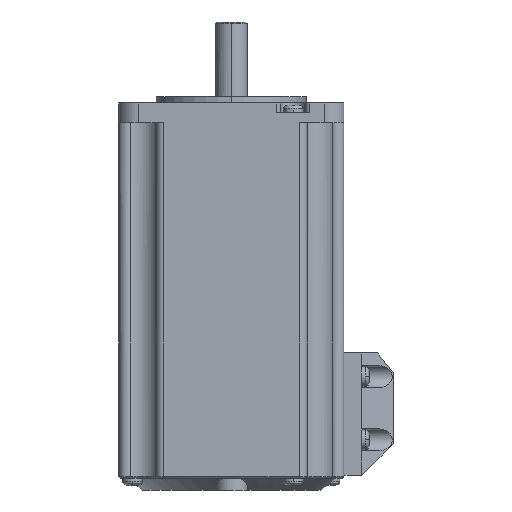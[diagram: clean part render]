
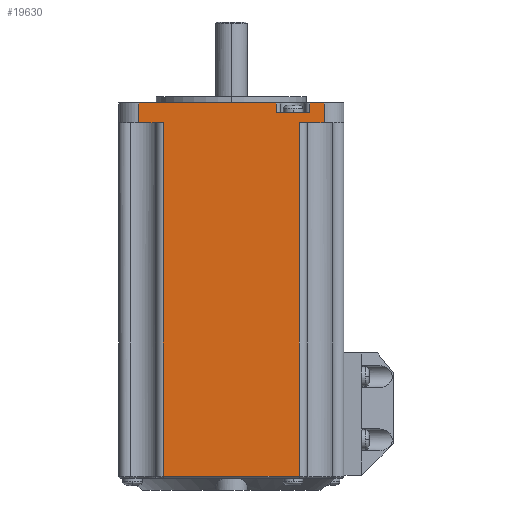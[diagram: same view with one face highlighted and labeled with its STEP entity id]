
A CAD part, left-side view. The second image highlights one B-rep face of the part: STEP entity #19630.
In plain terms, the highlighted planar face has unit normal (-1, 0, 0).
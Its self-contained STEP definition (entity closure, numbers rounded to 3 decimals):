
#13016=DIRECTION('',(0.,0.,-1.));
#13017=VECTOR('',#13016,89.5);
#13018=CARTESIAN_POINT('',(-0.5,10.825,50.));
#13019=LINE('',#13018,#13017);
#13024=DIRECTION('',(0.,1.,0.));
#13025=VECTOR('',#13024,34.892);
#13026=CARTESIAN_POINT('',(-0.5,16.608,55.));
#13027=LINE('',#13026,#13025);
#13028=DIRECTION('',(0.,1.,0.));
#13029=VECTOR('',#13028,8.5);
#13030=CARTESIAN_POINT('',(-0.5,8.108,52.5));
#13031=LINE('',#13030,#13029);
#13032=DIRECTION('',(0.,1.,0.));
#13033=VECTOR('',#13032,3.608);
#13034=CARTESIAN_POINT('',(-0.5,4.5,55.));
#13035=LINE('',#13034,#13033);
#13040=DIRECTION('',(0.,0.,1.));
#13041=VECTOR('',#13040,89.5);
#13042=CARTESIAN_POINT('',(-0.5,45.175,-39.5));
#13043=LINE('',#13042,#13041);
#13232=DIRECTION('',(0.,1.,0.));
#13233=VECTOR('',#13232,34.351);
#13234=CARTESIAN_POINT('',(-0.5,10.825,-39.5));
#13235=LINE('',#13234,#13233);
#16891=DIRECTION('',(0.,0.,1.));
#16892=VECTOR('',#16891,5.);
#16893=CARTESIAN_POINT('',(-0.5,51.5,50.));
#16894=LINE('',#16893,#16892);
#16899=DIRECTION('',(0.,1.,0.));
#16900=VECTOR('',#16899,6.325);
#16901=CARTESIAN_POINT('',(-0.5,45.175,50.));
#16902=LINE('',#16901,#16900);
#16949=DIRECTION('',(0.,0.,-1.));
#16950=VECTOR('',#16949,2.5);
#16951=CARTESIAN_POINT('',(-0.5,16.608,55.));
#16952=LINE('',#16951,#16950);
#16996=DIRECTION('',(0.,0.,1.));
#16997=VECTOR('',#16996,2.5);
#16998=CARTESIAN_POINT('',(-0.5,8.108,52.5));
#16999=LINE('',#16998,#16997);
#17004=DIRECTION('',(0.,0.,-1.));
#17005=VECTOR('',#17004,5.);
#17006=CARTESIAN_POINT('',(-0.5,4.5,55.));
#17007=LINE('',#17006,#17005);
#17027=DIRECTION('',(0.,1.,0.));
#17028=VECTOR('',#17027,6.325);
#17029=CARTESIAN_POINT('',(-0.5,4.5,50.));
#17030=LINE('',#17029,#17028);
#17308=CARTESIAN_POINT('',(-0.5,8.108,52.5));
#17309=CARTESIAN_POINT('',(-0.5,16.608,52.5));
#17310=VERTEX_POINT('',#17308);
#17311=VERTEX_POINT('',#17309);
#17320=CARTESIAN_POINT('',(-0.5,10.825,50.));
#17321=CARTESIAN_POINT('',(-0.5,10.825,-39.5));
#17322=VERTEX_POINT('',#17320);
#17323=VERTEX_POINT('',#17321);
#17324=CARTESIAN_POINT('',(-0.5,45.175,-39.5));
#17325=VERTEX_POINT('',#17324);
#17326=CARTESIAN_POINT('',(-0.5,45.175,50.));
#17327=VERTEX_POINT('',#17326);
#17378=CARTESIAN_POINT('',(-0.5,4.5,50.));
#17379=VERTEX_POINT('',#17378);
#17384=CARTESIAN_POINT('',(-0.5,51.5,50.));
#17385=VERTEX_POINT('',#17384);
#17438=CARTESIAN_POINT('',(-0.5,4.5,55.));
#17439=VERTEX_POINT('',#17438);
#17440=CARTESIAN_POINT('',(-0.5,8.108,55.));
#17441=VERTEX_POINT('',#17440);
#17450=CARTESIAN_POINT('',(-0.5,16.608,55.));
#17451=VERTEX_POINT('',#17450);
#17452=CARTESIAN_POINT('',(-0.5,51.5,55.));
#17453=VERTEX_POINT('',#17452);
#19602=CARTESIAN_POINT('',(-0.5,56.,55.));
#19603=DIRECTION('',(1.,0.,0.));
#19604=DIRECTION('',(0.,0.,-1.));
#19605=AXIS2_PLACEMENT_3D('',#19602,#19603,#19604);
#19606=PLANE('',#19605);
#19608=ORIENTED_EDGE('',*,*,#19607,.T.);
#19610=ORIENTED_EDGE('',*,*,#19609,.T.);
#19612=ORIENTED_EDGE('',*,*,#19611,.T.);
#19613=ORIENTED_EDGE('',*,*,#18638,.F.);
#19615=ORIENTED_EDGE('',*,*,#19614,.T.);
#19617=ORIENTED_EDGE('',*,*,#19616,.F.);
#19619=ORIENTED_EDGE('',*,*,#19618,.T.);
#19620=ORIENTED_EDGE('',*,*,#18626,.F.);
#19622=ORIENTED_EDGE('',*,*,#19621,.T.);
#19624=ORIENTED_EDGE('',*,*,#19623,.T.);
#19625=ORIENTED_EDGE('',*,*,#19592,.T.);
#19627=ORIENTED_EDGE('',*,*,#19626,.T.);
#19628=EDGE_LOOP('',(#19608,#19610,#19612,#19613,#19615,#19617,#19619,#19620,
#19622,#19624,#19625,#19627));
#19629=FACE_OUTER_BOUND('',#19628,.F.);
#19630=ADVANCED_FACE('',(#19629),#19606,.F.);
#18626=EDGE_CURVE('',#17439,#17441,#13035,.T.);
#18638=EDGE_CURVE('',#17451,#17453,#13027,.T.);
#19592=EDGE_CURVE('',#17322,#17323,#13019,.T.);
#19607=EDGE_CURVE('',#17325,#17327,#13043,.T.);
#19609=EDGE_CURVE('',#17327,#17385,#16902,.T.);
#19611=EDGE_CURVE('',#17385,#17453,#16894,.T.);
#19614=EDGE_CURVE('',#17451,#17311,#16952,.T.);
#19616=EDGE_CURVE('',#17310,#17311,#13031,.T.);
#19618=EDGE_CURVE('',#17310,#17441,#16999,.T.);
#19621=EDGE_CURVE('',#17439,#17379,#17007,.T.);
#19623=EDGE_CURVE('',#17379,#17322,#17030,.T.);
#19626=EDGE_CURVE('',#17323,#17325,#13235,.T.);
